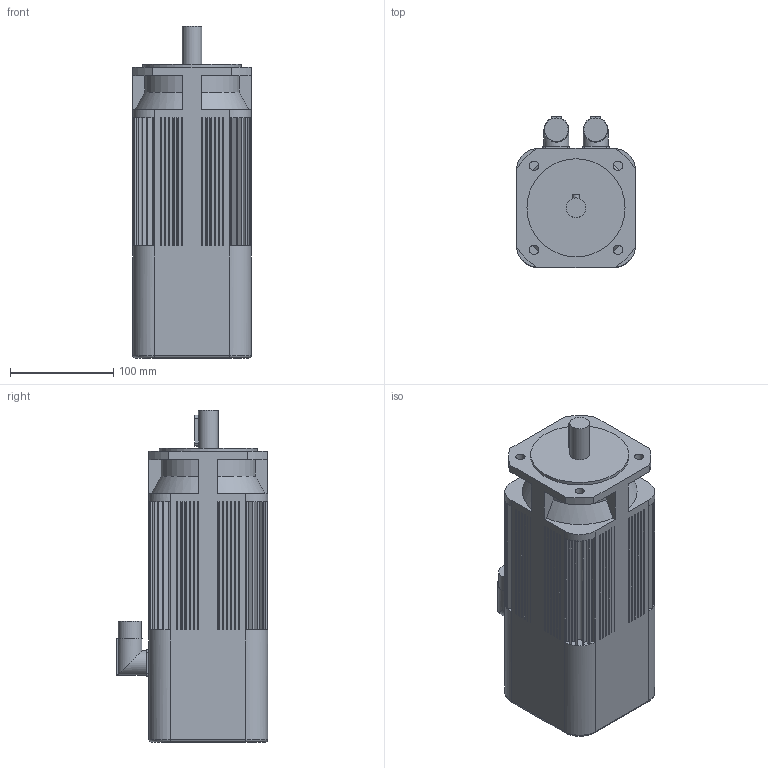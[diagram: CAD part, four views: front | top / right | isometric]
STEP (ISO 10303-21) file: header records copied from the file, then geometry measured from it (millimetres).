
FILE_DESCRIPTION(/* description */ (''),/* implementation_level */ '2;1');
FILE_NAME(/* name */ '\\Lafnas01\disegni\Archivi Lafert\3D\CAD 3D\MODELLI\Assiemi clienti\Serad\Modelli 3D Serad\B63I\Encoder\Enc Without Brake\B6306Ixx6ARx2033.ipt.stp',/* time_stamp */ '2015-09-07T10:50:36+02:00',/* author */ ('Pastrello Ylenia'),/* organization */ (''),/* preprocessor_version */ 'ST-DEVELOPER v15.6',/* originating_system */ 'Autodesk Inventor 2015',/* authorisation */ '');
FILE_SCHEMA (('AUTOMOTIVE_DESIGN { 1 0 10303 214 3 1 1 }'));
Length unit declared in the file: millimetre
Products named in the file (1): B6306Ixx6ARx2033
Bounding box: 115 x 146.5 x 321.5 mm (x, y, z)
Volume: 3480148.1 mm3; surface area: 195333.1 mm2
Topology: 1 solids, 1 shells, 445 faces, 1091 edges, 704 vertices
Faces by surface type: plane 351, cylinder 86, cone 4, torus 4
Full cylindrical faces by diameter (mm): 9 x4, 19 x1, 22.7 x2, 24 x2, 95 x1
Entity records: 13008 total; most frequent: CARTESIAN_POINT 2276, DIRECTION 2254, ORIENTED_EDGE 2156, EDGE_CURVE 1078, LINE 774, VECTOR 774, AXIS2_PLACEMENT_3D 740, VERTEX_POINT 702
